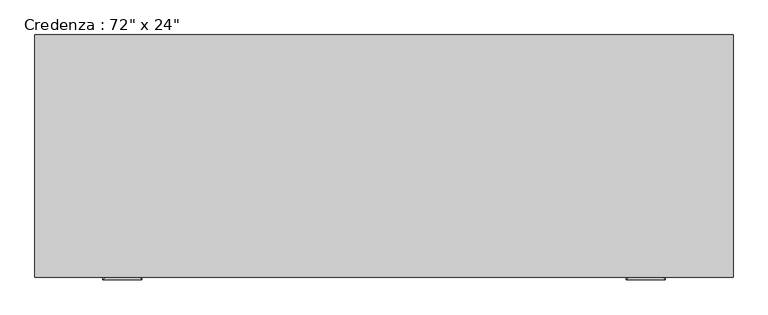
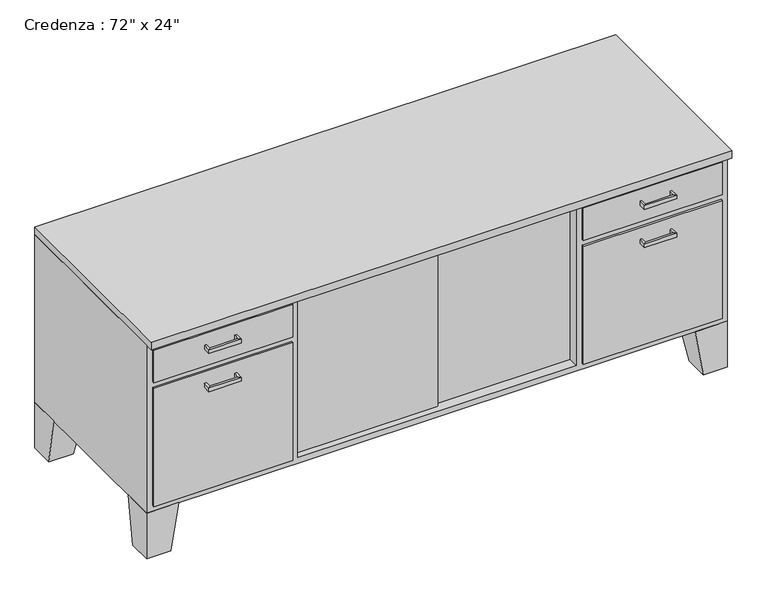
"""IFC4 building model written with IfcOpenShell, lengths in millimetres: furniture geometry."""

from ifc_helpers import new_model, si_unit, frame, origin, place, context, project, spatial, polyline, outline, extrude, faceted_brep, source, transform, mapped, element, save


def furniture_d4af3f8d(model_context):
    return source(origin(), model_context, "Body", "SolidModel", [
        extrude(outline(polyline([(531.7023176, -267.2714583), (46.8442623, -267.2714583), (46.8442623, -254.5714583), (531.7023176, -254.5714583), (531.7023176, -267.2714583)])), frame((0.0, 0.0, 171.45), z_axis=(0.0, 0.0, 1.0), x_axis=(1.0, 0.0, 0.0)), (0.0, 0.0, 1.0), 520.7),
        extrude(outline(polyline([(73.6254475, -279.9714583), (-378.6057377, -279.9714583), (-378.6057377, -267.2714583), (73.6254475, -267.2714583), (73.6254475, -279.9714583)])), frame((0.0, 0.0, 171.45), z_axis=(0.0, 0.0, 1.0), x_axis=(1.0, 0.0, 0.0)), (0.0, 0.0, 1.0), 520.7),
        faceted_brep([(872.3442623, 309.3803279, 152.4), (872.3442623, 207.7803279, 152.4), (973.9442623, 207.7803279, 152.4), (973.9442623, 309.3803279, 152.4), (897.7442623, 309.3803279, 0.0), (973.9442623, 309.3803279, 0.0), (973.9442623, 233.1803279, 0.0), (897.7442623, 233.1803279, 0.0)], [[[0, 1, 2, 3]], [[4, 5, 6, 7]], [[4, 7, 1, 0]], [[7, 6, 2, 1]], [[6, 5, 3, 2]], [[5, 4, 0, 3]]]),
        extrude(outline(polyline([(954.8942623, -306.5696721), (516.7442623, -306.5696721), (516.7442623, -300.2196721), (954.8942623, -300.2196721), (954.8942623, -306.5696721)])), frame((0.0, 0.0, 584.2), z_axis=(0.0, 0.0, 1.0), x_axis=(1.0, 0.0, 0.0)), (0.0, 0.0, 1.0), 107.95),
        extrude(outline(polyline([(954.8942623, -306.5696721), (516.7442623, -306.5696721), (516.7442623, -300.2196721), (954.8942623, -300.2196721), (954.8942623, -306.5696721)])), frame((0.0, 0.0, 171.45), z_axis=(0.0, 0.0, 1.0), x_axis=(1.0, 0.0, 0.0)), (0.0, 0.0, 1.0), 393.7),
        extrude(outline(polyline([(-397.6557377, -306.5696721), (-835.8057377, -306.5696721), (-835.8057377, -300.2196721), (-397.6557377, -300.2196721), (-397.6557377, -306.5696721)])), frame((0.0, 0.0, 584.2), z_axis=(0.0, 0.0, 1.0), x_axis=(1.0, 0.0, 0.0)), (0.0, 0.0, 1.0), 107.95),
        extrude(outline(polyline([(-397.6557377, -306.5696721), (-835.8057377, -306.5696721), (-835.8057377, -300.2196721), (-397.6557377, -300.2196721), (-397.6557377, -306.5696721)])), frame((0.0, 0.0, 171.45), z_axis=(0.0, 0.0, 1.0), x_axis=(1.0, 0.0, 0.0)), (0.0, 0.0, 1.0), 393.7),
        faceted_brep([(-753.2557377, -300.2196721, 152.4), (-753.2557377, -198.6196721, 152.4), (-854.8557377, -198.6196721, 152.4), (-854.8557377, -300.2196721, 152.4), (-778.6557377, -300.2196721, 0.0), (-854.8557377, -300.2196721, 0.0), (-854.8557377, -224.0196721, 0.0), (-778.6557377, -224.0196721, 0.0)], [[[0, 1, 2, 3]], [[4, 5, 6, 7]], [[4, 7, 1, 0]], [[7, 6, 2, 1]], [[6, 5, 3, 2]], [[5, 4, 0, 3]]]),
        faceted_brep([(-753.2557377, 309.3803279, 152.4), (-854.8557377, 309.3803279, 152.4), (-854.8557377, 207.7803279, 152.4), (-753.2557377, 207.7803279, 152.4), (-778.6557377, 309.3803279, 0.0), (-778.6557377, 233.1803279, 0.0), (-854.8557377, 233.1803279, 0.0), (-854.8557377, 309.3803279, 0.0)], [[[0, 1, 2, 3]], [[4, 5, 6, 7]], [[4, 7, 1, 0]], [[7, 6, 2, 1]], [[6, 5, 3, 2]], [[5, 4, 0, 3]]]),
        faceted_brep([(872.3442623, -300.2196721, 152.4), (973.9442623, -300.2196721, 152.4), (973.9442623, -198.6196721, 152.4), (872.3442623, -198.6196721, 152.4), (897.7442623, -300.2196721, 0.0), (897.7442623, -224.0196721, 0.0), (973.9442623, -224.0196721, 0.0), (973.9442623, -300.2196721, 0.0)], [[[0, 1, 2, 3]], [[4, 5, 6, 7]], [[4, 7, 1, 0]], [[7, 6, 2, 1]], [[6, 5, 3, 2]], [[5, 4, 0, 3]]]),
        faceted_brep([(973.9442623, 309.3803279, 711.2), (-854.8557377, 309.3803279, 711.2), (-854.8557377, -300.2196721, 711.2), (973.9442623, -300.2196721, 711.2), (973.9442623, 309.3803279, 152.4), (973.9442623, -300.2196721, 152.4), (-854.8557377, -300.2196721, 152.4), (-854.8557377, 309.3803279, 152.4), (-378.6057377, -300.2196721, 692.15), (497.6942623, -300.2196721, 692.15), (497.6942623, -300.2196721, 171.45), (-378.6057377, -300.2196721, 171.45), (497.6942623, 290.3303279, 692.15), (-378.6057377, 290.3303279, 692.15), (-378.6057377, 290.3303279, 171.45), (497.6942623, 290.3303279, 171.45)], [[[0, 1, 2, 3]], [[4, 5, 6, 7]], [[1, 0, 4, 7]], [[2, 1, 7, 6]], [[3, 2, 6, 5], [8, 9, 10, 11]], [[0, 3, 5, 4]], [[12, 13, 14, 15]], [[13, 12, 9, 8]], [[14, 13, 8, 11]], [[15, 14, 11, 10]], [[12, 15, 10, 9]]]),
        extrude(outline(polyline([(973.9442623, 309.3803279), (973.9442623, -325.6196721), (-854.8557377, -325.6196721), (-854.8557377, 309.3803279), (973.9442623, 309.3803279)])), frame((0.0, 0.0, 711.2), z_axis=(0.0, 0.0, 1.0), x_axis=(1.0, 0.0, 0.0)), (0.0, 0.0, 1.0), 25.4),
        faceted_brep([(-670.7057377, -306.5696721, 527.05), (-670.7057377, -306.5696721, 514.35), (-677.0557377, -306.5696721, 514.35), (-677.0557377, -306.5696721, 527.05), (-670.7057377, -325.6196721, 527.05), (-670.7057377, -325.6196721, 514.35), (-677.0557377, -331.9696721, 514.35), (-677.0557377, -331.9696721, 527.05), (-581.8057377, -325.6196721, 527.05), (-581.8057377, -325.6196721, 514.35), (-575.4557377, -331.9696721, 514.35), (-575.4557377, -331.9696721, 527.05), (-581.8057377, -306.5696721, 527.05), (-575.4557377, -306.5696721, 527.05), (-575.4557377, -306.5696721, 514.35), (-581.8057377, -306.5696721, 514.35)], [[[0, 1, 2, 3]], [[1, 0, 4, 5]], [[2, 1, 5, 6]], [[3, 2, 6, 7]], [[0, 3, 7, 4]], [[5, 4, 8, 9]], [[6, 5, 9, 10]], [[7, 6, 10, 11]], [[4, 7, 11, 8]], [[12, 13, 14, 15]], [[9, 8, 12, 15]], [[10, 9, 15, 14]], [[11, 10, 14, 13]], [[8, 11, 13, 12]]]),
        faceted_brep([(-670.7057377, -306.5696721, 654.05), (-670.7057377, -306.5696721, 641.35), (-677.0557377, -306.5696721, 641.35), (-677.0557377, -306.5696721, 654.05), (-670.7057377, -325.6196721, 654.05), (-670.7057377, -325.6196721, 641.35), (-677.0557377, -331.9696721, 641.35), (-677.0557377, -331.9696721, 654.05), (-581.8057377, -325.6196721, 654.05), (-581.8057377, -325.6196721, 641.35), (-575.4557377, -331.9696721, 641.35), (-575.4557377, -331.9696721, 654.05), (-581.8057377, -306.5696721, 654.05), (-575.4557377, -306.5696721, 654.05), (-575.4557377, -306.5696721, 641.35), (-581.8057377, -306.5696721, 641.35)], [[[0, 1, 2, 3]], [[1, 0, 4, 5]], [[2, 1, 5, 6]], [[3, 2, 6, 7]], [[0, 3, 7, 4]], [[5, 4, 8, 9]], [[6, 5, 9, 10]], [[7, 6, 10, 11]], [[4, 7, 11, 8]], [[12, 13, 14, 15]], [[9, 8, 12, 15]], [[10, 9, 15, 14]], [[11, 10, 14, 13]], [[8, 11, 13, 12]]]),
        faceted_brep([(700.8942623, -306.5696721, 654.1373112), (700.8942623, -306.5696721, 641.4373112), (694.5442623, -306.5696721, 641.4373112), (694.5442623, -306.5696721, 654.1373112), (700.8942623, -325.6196721, 654.1373112), (700.8942623, -325.6196721, 641.4373112), (694.5442623, -331.9696721, 641.4373112), (694.5442623, -331.9696721, 654.1373112), (789.7942623, -325.6196721, 654.1373112), (789.7942623, -325.6196721, 641.4373112), (796.1442623, -331.9696721, 641.4373112), (796.1442623, -331.9696721, 654.1373112), (789.7942623, -306.5696721, 654.1373112), (796.1442623, -306.5696721, 654.1373112), (796.1442623, -306.5696721, 641.4373112), (789.7942623, -306.5696721, 641.4373112)], [[[0, 1, 2, 3]], [[1, 0, 4, 5]], [[2, 1, 5, 6]], [[3, 2, 6, 7]], [[0, 3, 7, 4]], [[5, 4, 8, 9]], [[6, 5, 9, 10]], [[7, 6, 10, 11]], [[4, 7, 11, 8]], [[12, 13, 14, 15]], [[9, 8, 12, 15]], [[10, 9, 15, 14]], [[11, 10, 14, 13]], [[8, 11, 13, 12]]]),
        faceted_brep([(700.8942623, -306.5696721, 527.05), (700.8942623, -306.5696721, 514.35), (694.5442623, -306.5696721, 514.35), (694.5442623, -306.5696721, 527.05), (700.8942623, -325.6196721, 527.05), (700.8942623, -325.6196721, 514.35), (694.5442623, -331.9696721, 514.35), (694.5442623, -331.9696721, 527.05), (789.7942623, -325.6196721, 527.05), (789.7942623, -325.6196721, 514.35), (796.1442623, -331.9696721, 514.35), (796.1442623, -331.9696721, 527.05), (789.7942623, -306.5696721, 527.05), (796.1442623, -306.5696721, 527.05), (796.1442623, -306.5696721, 514.35), (789.7942623, -306.5696721, 514.35)], [[[0, 1, 2, 3]], [[1, 0, 4, 5]], [[2, 1, 5, 6]], [[3, 2, 6, 7]], [[0, 3, 7, 4]], [[5, 4, 8, 9]], [[6, 5, 9, 10]], [[7, 6, 10, 11]], [[4, 7, 11, 8]], [[12, 13, 14, 15]], [[9, 8, 12, 15]], [[10, 9, 15, 14]], [[11, 10, 14, 13]], [[8, 11, 13, 12]]]),
    ])


if __name__ == "__main__":
    model = new_model("IFC4")
    model_context = context("Model", 3, world=origin())
    ifc_project = project(units=[si_unit("LENGTHUNIT", "METRE", prefix="MILLI")], contexts=[model_context])
    site = spatial("IfcSite", under=ifc_project)
    building = spatial("IfcBuilding", under=site)
    placement = place(None, origin())
    furniture_shape = furniture_d4af3f8d(model_context)
    element("IfcFurniture", 1, ObjectType="Credenza : 72\" x 24\"", at=placement, inside=building, context=model_context, shape_type="MappedRepresentation", body=[
        mapped(furniture_shape, transform((0.0, 0.0, 0.0), x_axis=(1.0, 0.0, 0.0), y_axis=(0.0, 1.0, 0.0), z_axis=(0.0, 0.0, 1.0))),
    ])
    save(model, "model.ifc")
